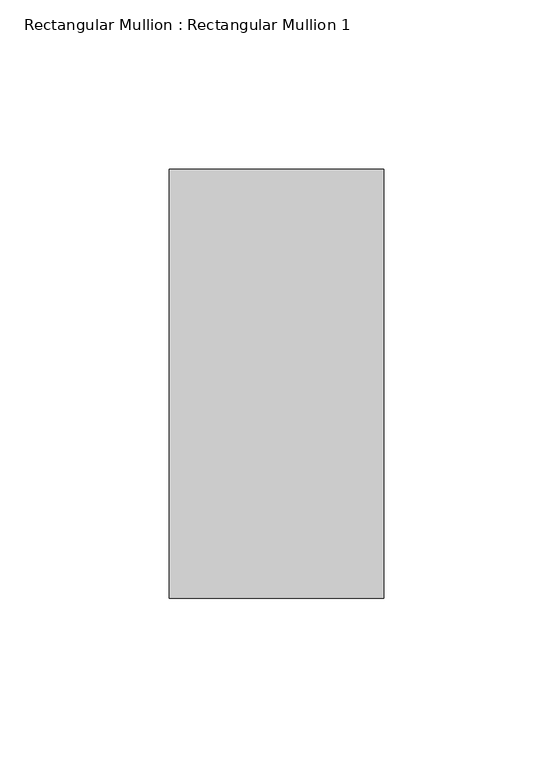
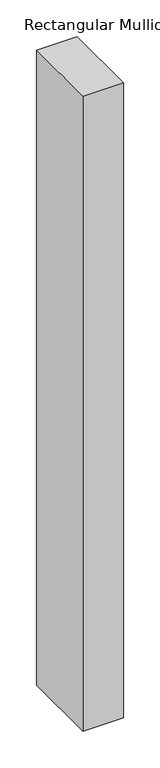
"""IFC4 building model written with IfcOpenShell, lengths in millimetres: member geometry, Rectangular Mullion : Rectangular Mullion 1."""

from ifc_helpers import new_model, si_unit, frame, origin, place, context, project, spatial, polyline, outline, extrude, source, transform, mapped, element, save


def rectangular_mullion_rectangular_mullion_1_158ba3e1(model_context):
    return source(origin(), model_context, "Body", "SweptSolid", [
        extrude(outline(polyline([(31.75, 63.5), (31.75, -63.5), (-31.75, -63.5), (-31.75, 63.5), (31.75, 63.5)])), frame((0.0, 0.0, -1056.8214286), z_axis=(0.0, 0.0, 1.0), x_axis=(1.0, 0.0, 0.0)), (0.0, 0.0, 1.0), 1056.8214286),
    ])


if __name__ == "__main__":
    model = new_model("IFC4")
    model_context = context("Model", 3, world=origin())
    ifc_project = project(units=[si_unit("LENGTHUNIT", "METRE", prefix="MILLI")], contexts=[model_context])
    site = spatial("IfcSite", under=ifc_project)
    building = spatial("IfcBuilding", under=site)
    placement = place(None, origin())
    rectangular_mullion_rectangular_mullion_1_shape = rectangular_mullion_rectangular_mullion_1_158ba3e1(model_context)
    element("IfcMember", 1, ObjectType="Rectangular Mullion : Rectangular Mullion 1", at=placement, inside=building, context=model_context, shape_type="MappedRepresentation", body=[
        mapped(rectangular_mullion_rectangular_mullion_1_shape, transform((0.0, 0.0, 0.0), x_axis=(1.0, 0.0, 0.0), y_axis=(0.0, 1.0, 0.0), z_axis=(0.0, 0.0, 1.0))),
    ])
    save(model, "model.ifc")
